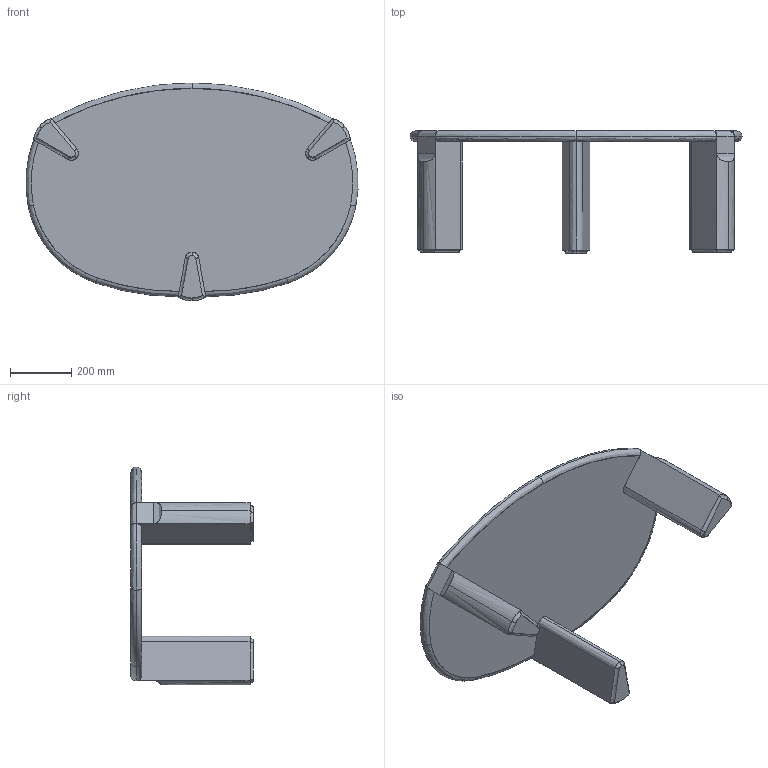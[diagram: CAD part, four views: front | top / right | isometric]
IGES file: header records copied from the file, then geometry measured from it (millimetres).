
Start section: SolidWorks IGES file using analytic representation for surfaces
Global section: file name: C:\Users\Utilizador\Desktop\Sales Files\686\686S Twenty-Five Coffee Table_3D IGS.IGS; native system: SolidWorks 2016; preprocessor: SolidWorks 2016; author: Utilizador; date: 221021.085022; units: millimetre
Bounding box: 1087.46 x 400 x 714 mm (x, y, z)
Surface area: 1826616.1 mm2 (no closed solid volume)
Topology: 0 solids, 0 shells, 147 faces, 2728 edges, 2728 vertices
Faces by surface type: bspline 75, revolution 72
